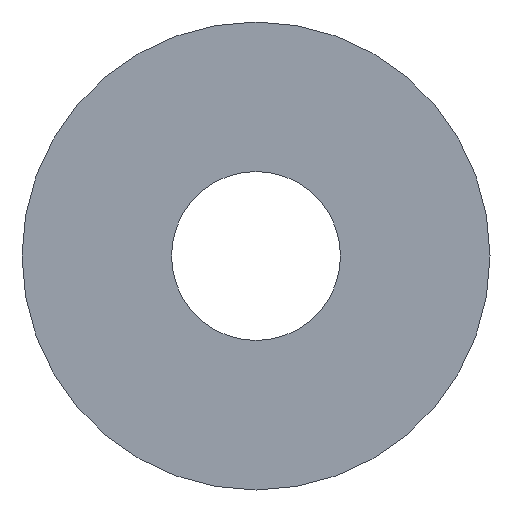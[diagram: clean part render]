
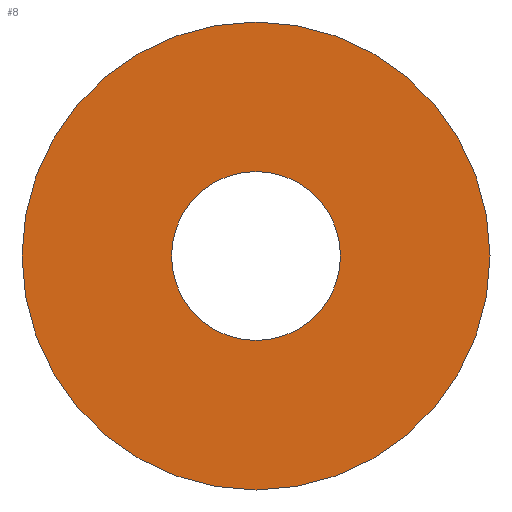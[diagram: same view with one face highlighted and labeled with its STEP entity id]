
A CAD part, front view. The second image highlights one B-rep face of the part: STEP entity #8.
In plain terms, the highlighted planar face has unit normal (0, -1, 0).
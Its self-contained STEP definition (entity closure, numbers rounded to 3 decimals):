
#8 = ADVANCED_FACE ( 'NONE', ( #121, #228 ), #9, .F. ) ;
#9 = PLANE ( 'NONE',  #57 ) ;
#13 = CARTESIAN_POINT ( 'NONE',  ( 0., 0., -36. ) ) ;
#14 = EDGE_CURVE ( 'NONE', #154, #111, #60, .T. ) ;
#15 = CARTESIAN_POINT ( 'NONE',  ( 0., 0., 13. ) ) ;
#19 = EDGE_CURVE ( 'NONE', #85, #31, #72, .T. ) ;
#25 = CIRCLE ( 'NONE', #107, 13. ) ;
#31 = VERTEX_POINT ( 'NONE', #13 ) ;
#33 = DIRECTION ( 'NONE',  ( 0., 1., 0. ) ) ;
#36 = CARTESIAN_POINT ( 'NONE',  ( 0., 0., 36. ) ) ;
#38 = ORIENTED_EDGE ( 'NONE', *, *, #19, .F. ) ;
#43 = EDGE_CURVE ( 'NONE', #111, #154, #25, .T. ) ;
#48 = CARTESIAN_POINT ( 'NONE',  ( 0., 0., 0. ) ) ;
#51 = CARTESIAN_POINT ( 'NONE',  ( 0., 0., 0. ) ) ;
#52 = EDGE_CURVE ( 'NONE', #31, #85, #223, .T. ) ;
#57 = AXIS2_PLACEMENT_3D ( 'NONE', #48, #33, #247 ) ;
#59 = EDGE_LOOP ( 'NONE', ( #80, #155 ) ) ;
#60 = CIRCLE ( 'NONE', #63, 13. ) ;
#63 = AXIS2_PLACEMENT_3D ( 'NONE', #193, #73, #230 ) ;
#72 = CIRCLE ( 'NONE', #82, 36. ) ;
#73 = DIRECTION ( 'NONE',  ( 0., 1., 0. ) ) ;
#77 = DIRECTION ( 'NONE',  ( 0., 1., 0. ) ) ;
#80 = ORIENTED_EDGE ( 'NONE', *, *, #14, .T. ) ;
#82 = AXIS2_PLACEMENT_3D ( 'NONE', #51, #77, #99 ) ;
#85 = VERTEX_POINT ( 'NONE', #36 ) ;
#97 = DIRECTION ( 'NONE',  ( 0., 1., 0. ) ) ;
#99 = DIRECTION ( 'NONE',  ( 0., 0., 1. ) ) ;
#107 = AXIS2_PLACEMENT_3D ( 'NONE', #227, #97, #170 ) ;
#111 = VERTEX_POINT ( 'NONE', #15 ) ;
#112 = DIRECTION ( 'NONE',  ( 0., 0., 1. ) ) ;
#121 = FACE_OUTER_BOUND ( 'NONE', #208, .T. ) ;
#122 = AXIS2_PLACEMENT_3D ( 'NONE', #242, #237, #112 ) ;
#128 = CARTESIAN_POINT ( 'NONE',  ( 0., 0., -13. ) ) ;
#154 = VERTEX_POINT ( 'NONE', #128 ) ;
#155 = ORIENTED_EDGE ( 'NONE', *, *, #43, .T. ) ;
#160 = ORIENTED_EDGE ( 'NONE', *, *, #52, .F. ) ;
#170 = DIRECTION ( 'NONE',  ( 0., 0., 1. ) ) ;
#193 = CARTESIAN_POINT ( 'NONE',  ( 0., 0., 0. ) ) ;
#208 = EDGE_LOOP ( 'NONE', ( #160, #38 ) ) ;
#223 = CIRCLE ( 'NONE', #122, 36. ) ;
#227 = CARTESIAN_POINT ( 'NONE',  ( 0., 0., 0. ) ) ;
#228 = FACE_BOUND ( 'NONE', #59, .T. ) ;
#230 = DIRECTION ( 'NONE',  ( 0., 0., 1. ) ) ;
#237 = DIRECTION ( 'NONE',  ( 0., 1., 0. ) ) ;
#242 = CARTESIAN_POINT ( 'NONE',  ( 0., 0., 0. ) ) ;
#247 = DIRECTION ( 'NONE',  ( 0., 0., 1. ) ) ;
